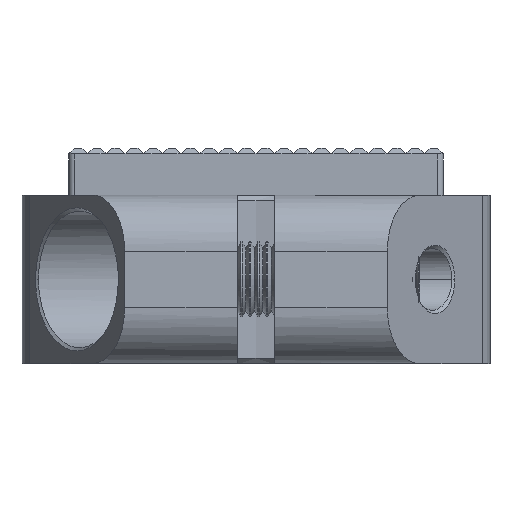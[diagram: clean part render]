
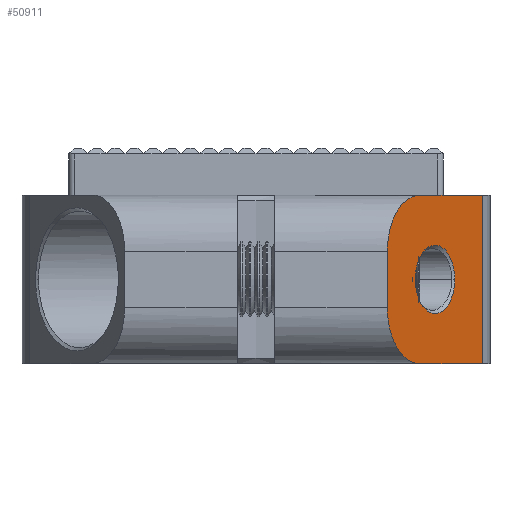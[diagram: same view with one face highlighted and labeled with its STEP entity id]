
A CAD part, left-side view. The second image highlights one B-rep face of the part: STEP entity #50911.
In plain terms, the highlighted planar face has unit normal (-0.5, -0.866, 0).
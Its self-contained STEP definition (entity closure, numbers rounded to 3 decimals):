
#388 = VERTEX_POINT ( 'NONE', #45459 ) ;
#943 = LINE ( 'NONE', #28213, #84097 ) ;
#1683 = DIRECTION ( 'NONE',  ( 0.866, -0.5, 0. ) ) ;
#1952 = CARTESIAN_POINT ( 'NONE',  ( -10.648, 37.324, -8.525 ) ) ;
#2331 = VECTOR ( 'NONE', #10900, 1000. ) ;
#5007 = CARTESIAN_POINT ( 'NONE',  ( -33.108, 50.292, -2.201 ) ) ;
#5395 = EDGE_CURVE ( 'NONE', #29119, #388, #70993, .T. ) ;
#5458 = CARTESIAN_POINT ( 'NONE',  ( -31.931, 49.612, -5.159 ) ) ;
#5718 = CARTESIAN_POINT ( 'NONE',  ( -34.818, 51.278, -5.145 ) ) ;
#6951 = LINE ( 'NONE', #1952, #41935 ) ;
#7419 = EDGE_LOOP ( 'NONE', ( #30824, #28665, #15898, #58492, #42212, #17458 ) ) ;
#8414 = ORIENTED_EDGE ( 'NONE', *, *, #84376, .T. ) ;
#10900 = DIRECTION ( 'NONE',  ( 0., 0., -1. ) ) ;
#11332 = CARTESIAN_POINT ( 'NONE',  ( -35.182, 51.489, -3.521 ) ) ;
#11630 = CARTESIAN_POINT ( 'NONE',  ( -32.398, 49.882, -2.463 ) ) ;
#12028 = CARTESIAN_POINT ( 'NONE',  ( -32.029, 49.668, -5.271 ) ) ;
#12306 = CARTESIAN_POINT ( 'NONE',  ( -35.136, 51.463, -4.496 ) ) ;
#13543 = CARTESIAN_POINT ( 'NONE',  ( -34.773, 51.253, 0.475 ) ) ;
#15562 = CARTESIAN_POINT ( 'NONE',  ( -34.773, 51.253, -8.525 ) ) ;
#15898 = ORIENTED_EDGE ( 'NONE', *, *, #20794, .F. ) ;
#17458 = ORIENTED_EDGE ( 'NONE', *, *, #5395, .T. ) ;
#17615 = CARTESIAN_POINT ( 'NONE',  ( -28.969, 47.902, 0.475 ) ) ;
#18243 = CARTESIAN_POINT ( 'NONE',  ( -32.161, 49.745, -2.65 ) ) ;
#18481 = FACE_OUTER_BOUND ( 'NONE', #7419, .T. ) ;
#18690 = CARTESIAN_POINT ( 'NONE',  ( -32.426, 49.898, -5.669 ) ) ;
#18973 = CARTESIAN_POINT ( 'NONE',  ( -35.183, 51.489, -4.025 ) ) ;
#20530 = VERTEX_POINT ( 'NONE', #84992 ) ;
#20794 = EDGE_CURVE ( 'NONE', #20530, #49425, #943, .T. ) ;
#24696 = VERTEX_POINT ( 'NONE', #66179 ) ;
#24885 = CARTESIAN_POINT ( 'NONE',  ( -32.092, 49.705, -2.714 ) ) ;
#25307 = CARTESIAN_POINT ( 'NONE',  ( -33.611, 50.582, -5.848 ) ) ;
#26467 = CARTESIAN_POINT ( 'NONE',  ( -28.969, 47.902, 0.475 ) ) ;
#26795 = CARTESIAN_POINT ( 'NONE',  ( -37.773, 52.985, -2.525 ) ) ;
#27055 = DIRECTION ( 'NONE',  ( 0., 0., 1. ) ) ;
#28213 = CARTESIAN_POINT ( 'NONE',  ( -32.023, 49.665, 0.475 ) ) ;
#28591 = CARTESIAN_POINT ( 'NONE',  ( -26.773, 46.634, 0.475 ) ) ;
#28665 = ORIENTED_EDGE ( 'NONE', *, *, #47990, .T. ) ;
#29119 = VERTEX_POINT ( 'NONE', #35722 ) ;
#29337 = EDGE_LOOP ( 'NONE', ( #8414, #35667 ) ) ;
#30824 = ORIENTED_EDGE ( 'NONE', *, *, #62701, .T. ) ;
#31530 = CARTESIAN_POINT ( 'NONE',  ( -31.77, 49.519, -3.102 ) ) ;
#31664 = CARTESIAN_POINT ( 'NONE',  ( -31.536, 49.384, -4.025 ) ) ;
#31941 = CARTESIAN_POINT ( 'NONE',  ( -34.321, 50.992, -5.586 ) ) ;
#35197 = DIRECTION ( 'NONE',  ( 0.866, -0.5, 0. ) ) ;
#35245 = B_SPLINE_CURVE_WITH_KNOTS ( 'NONE', 3,
 ( #63843, #11332, #37804, #83673, #44420, #5007, #51006, #11630, #57579, #18243, #64120, #24885, #70680, #31530, #77349, #38094, #83938 ),
 .UNSPECIFIED., .F., .F.,
 ( 4, 2, 2, 1, 1, 1, 2, 2, 2, 4 ),
 ( 0., 0.125, 0.25, 0.313, 0.344, 0.359, 0.367, 0.375, 0.438, 0.5 ),
 .UNSPECIFIED. ) ;
#35667 = ORIENTED_EDGE ( 'NONE', *, *, #71912, .T. ) ;
#35722 = CARTESIAN_POINT ( 'NONE',  ( -37.773, 52.985, -5.525 ) ) ;
#36978 = VECTOR ( 'NONE', #27055, 1000. ) ;
#37123 = AXIS2_PLACEMENT_3D ( 'NONE', #28591, #74379, #35197 ) ;
#37804 = CARTESIAN_POINT ( 'NONE',  ( -35.004, 51.386, -3.091 ) ) ;
#38094 = CARTESIAN_POINT ( 'NONE',  ( -31.537, 49.384, -3.786 ) ) ;
#38237 = CARTESIAN_POINT ( 'NONE',  ( -31.583, 49.411, -4.496 ) ) ;
#38510 = CARTESIAN_POINT ( 'NONE',  ( -34.558, 51.129, -5.399 ) ) ;
#41513 = PLANE ( 'NONE',  #37123 ) ;
#41759 = CARTESIAN_POINT ( 'NONE',  ( -37.773, 52.985, -5.525 ) ) ;
#41935 = VECTOR ( 'NONE', #1683, 1000. ) ;
#42212 = ORIENTED_EDGE ( 'NONE', *, *, #71817, .T. ) ;
#43209 =( BOUNDED_CURVE ( )  B_SPLINE_CURVE ( 3, ( #13543, #52913, #66049, #26795 ),
 .UNSPECIFIED., .F., .F. ) 
 B_SPLINE_CURVE_WITH_KNOTS ( ( 4, 4 ),
 ( 1.571, 3.142 ),
 .UNSPECIFIED. ) 
 CURVE ( )  GEOMETRIC_REPRESENTATION_ITEM ( )  RATIONAL_B_SPLINE_CURVE ( ( 1., 0.805, 0.805, 1. ) ) 
 REPRESENTATION_ITEM ( '' )  );
#43871 = CARTESIAN_POINT ( 'NONE',  ( -37.773, 52.985, -2.525 ) ) ;
#44420 = CARTESIAN_POINT ( 'NONE',  ( -33.863, 50.727, -2.202 ) ) ;
#44823 = CARTESIAN_POINT ( 'NONE',  ( -31.807, 49.541, -4.993 ) ) ;
#45108 = CARTESIAN_POINT ( 'NONE',  ( -34.628, 51.169, -5.335 ) ) ;
#45459 = CARTESIAN_POINT ( 'NONE',  ( -34.773, 51.253, -8.525 ) ) ;
#46287 = VERTEX_POINT ( 'NONE', #53319 ) ;
#47990 = EDGE_CURVE ( 'NONE', #24696, #49425, #54404, .T. ) ;
#49425 = VERTEX_POINT ( 'NONE', #17615 ) ;
#50911 = ADVANCED_FACE ( 'NONE', ( #68733, #18481 ), #41513, .T. ) ;
#51006 = CARTESIAN_POINT ( 'NONE',  ( -32.758, 50.09, -2.268 ) ) ;
#51439 = CARTESIAN_POINT ( 'NONE',  ( -31.989, 49.645, -5.227 ) ) ;
#51737 = CARTESIAN_POINT ( 'NONE',  ( -34.949, 51.354, -4.948 ) ) ;
#52913 = CARTESIAN_POINT ( 'NONE',  ( -36.53, 52.267, 0.475 ) ) ;
#53319 = CARTESIAN_POINT ( 'NONE',  ( -35.183, 51.489, -4.025 ) ) ;
#54404 = LINE ( 'NONE', #26467, #36978 ) ;
#54918 = CARTESIAN_POINT ( 'NONE',  ( -36.53, 52.267, -8.525 ) ) ;
#57579 = CARTESIAN_POINT ( 'NONE',  ( -32.23, 49.785, -2.589 ) ) ;
#58024 = CARTESIAN_POINT ( 'NONE',  ( -32.048, 49.68, -5.291 ) ) ;
#58291 = CARTESIAN_POINT ( 'NONE',  ( -35.183, 51.49, -4.263 ) ) ;
#58492 = ORIENTED_EDGE ( 'NONE', *, *, #79539, .T. ) ;
#59782 = CARTESIAN_POINT ( 'NONE',  ( -37.773, 52.985, -7.282 ) ) ;
#62701 = EDGE_CURVE ( 'NONE', #388, #24696, #6951, .T. ) ;
#63138 = CARTESIAN_POINT ( 'NONE',  ( -37.773, 52.985, 0.475 ) ) ;
#63256 = B_SPLINE_CURVE_WITH_KNOTS ( 'NONE', 3,
 ( #31664, #64264, #38237, #84086, #44823, #5458, #51439, #12028, #58024, #18690, #64538, #25307, #71126, #31941, #77753, #38510, #84397, #45108, #5718, #51737, #12306, #58291, #18973 ),
 .UNSPECIFIED., .F., .F.,
 ( 4, 2, 1, 1, 2, 2, 2, 1, 1, 1, 2, 2, 2, 4 ),
 ( 0.5, 0.562, 0.594, 0.609, 0.617, 0.625, 0.75, 0.813, 0.844, 0.859, 0.867, 0.875, 0.938, 1. ),
 .UNSPECIFIED. ) ;
#63843 = CARTESIAN_POINT ( 'NONE',  ( -35.183, 51.489, -4.025 ) ) ;
#64120 = CARTESIAN_POINT ( 'NONE',  ( -32.115, 49.718, -2.691 ) ) ;
#64264 = CARTESIAN_POINT ( 'NONE',  ( -31.536, 49.384, -4.263 ) ) ;
#64538 = CARTESIAN_POINT ( 'NONE',  ( -32.857, 50.146, -5.847 ) ) ;
#66049 = CARTESIAN_POINT ( 'NONE',  ( -37.773, 52.985, -0.767 ) ) ;
#66179 = CARTESIAN_POINT ( 'NONE',  ( -28.969, 47.902, -8.525 ) ) ;
#66489 = CARTESIAN_POINT ( 'NONE',  ( -31.536, 49.384, -4.025 ) ) ;
#67411 = DIRECTION ( 'NONE',  ( 0.866, -0.5, 0. ) ) ;
#68733 = FACE_BOUND ( 'NONE', #29337, .T. ) ;
#70680 = CARTESIAN_POINT ( 'NONE',  ( -31.902, 49.595, -2.904 ) ) ;
#70823 = VERTEX_POINT ( 'NONE', #66489 ) ;
#70993 =( BOUNDED_CURVE ( )  B_SPLINE_CURVE ( 3, ( #41759, #59782, #54918, #15562 ),
 .UNSPECIFIED., .F., .T. ) 
 B_SPLINE_CURVE_WITH_KNOTS ( ( 4, 4 ),
 ( 3.142, 4.712 ),
 .UNSPECIFIED. ) 
 CURVE ( )  GEOMETRIC_REPRESENTATION_ITEM ( )  RATIONAL_B_SPLINE_CURVE ( ( 1., 0.805, 0.805, 1. ) ) 
 REPRESENTATION_ITEM ( '' )  );
#71126 = CARTESIAN_POINT ( 'NONE',  ( -33.961, 50.784, -5.781 ) ) ;
#71817 = EDGE_CURVE ( 'NONE', #78385, #29119, #72138, .T. ) ;
#71912 = EDGE_CURVE ( 'NONE', #70823, #46287, #63256, .T. ) ;
#72138 = LINE ( 'NONE', #63138, #2331 ) ;
#74379 = DIRECTION ( 'NONE',  ( -0.5, -0.866, 0. ) ) ;
#77349 = CARTESIAN_POINT ( 'NONE',  ( -31.583, 49.411, -3.553 ) ) ;
#77753 = CARTESIAN_POINT ( 'NONE',  ( -34.489, 51.089, -5.46 ) ) ;
#78385 = VERTEX_POINT ( 'NONE', #43871 ) ;
#79539 = EDGE_CURVE ( 'NONE', #20530, #78385, #43209, .T. ) ;
#83673 = CARTESIAN_POINT ( 'NONE',  ( -34.293, 50.976, -2.38 ) ) ;
#83938 = CARTESIAN_POINT ( 'NONE',  ( -31.536, 49.384, -4.025 ) ) ;
#84086 = CARTESIAN_POINT ( 'NONE',  ( -31.723, 49.492, -4.834 ) ) ;
#84097 = VECTOR ( 'NONE', #67411, 1000. ) ;
#84376 = EDGE_CURVE ( 'NONE', #46287, #70823, #35245, .T. ) ;
#84397 = CARTESIAN_POINT ( 'NONE',  ( -34.604, 51.155, -5.358 ) ) ;
#84992 = CARTESIAN_POINT ( 'NONE',  ( -34.773, 51.253, 0.475 ) ) ;
